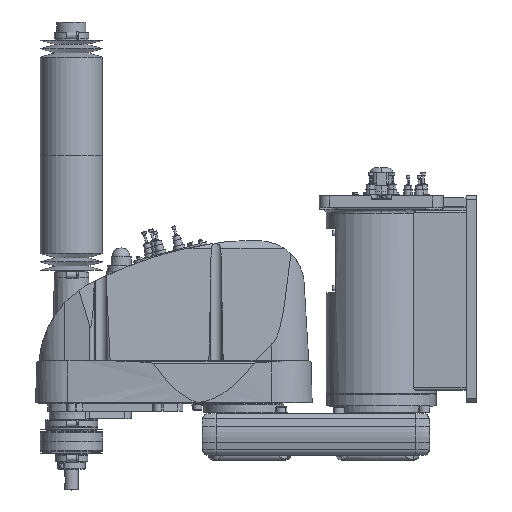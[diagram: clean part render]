
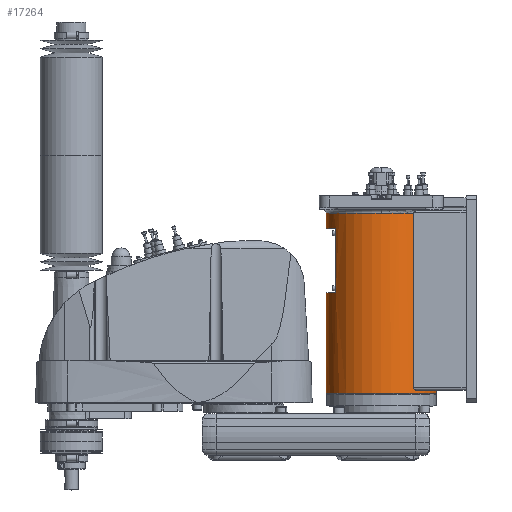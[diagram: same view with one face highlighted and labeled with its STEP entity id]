
A CAD part, top view. The second image highlights one B-rep face of the part: STEP entity #17264.
In plain terms, the highlighted cylindrical face has radius 80 mm (diameter 160 mm), a partial arc.
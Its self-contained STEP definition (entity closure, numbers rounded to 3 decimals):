
#10156 = VERTEX_POINT( '', #28813 );
#10910 = EDGE_CURVE( '', #14516, #13436, #29645, .T. );
#11182 = EDGE_CURVE( '', #26848, #21718, #29935, .T. );
#11786 = EDGE_CURVE( '', #19510, #27258, #30607, .T. );
#12106 = EDGE_CURVE( '', #10156, #21882, #30963, .T. );
#13436 = VERTEX_POINT( '', #32458 );
#14516 = VERTEX_POINT( '', #33651 );
#15782 = VERTEX_POINT( '', #35072 );
#17264 = ADVANCED_FACE( '', ( #36719 ), #36720, .T. );
#18618 = EDGE_CURVE( '', #15782, #21718, #38214, .T. );
#18650 = VERTEX_POINT( '', #38247 );
#19510 = VERTEX_POINT( '', #39207 );
#19734 = EDGE_CURVE( '', #19510, #15782, #39460, .T. );
#19800 = EDGE_CURVE( '', #13436, #10156, #39529, .T. );
#19892 = EDGE_CURVE( '', #21882, #27610, #39632, .T. );
#21616 = VERTEX_POINT( '', #41598 );
#21700 = EDGE_CURVE( '', #27610, #21616, #41691, .T. );
#21718 = VERTEX_POINT( '', #41711 );
#21882 = VERTEX_POINT( '', #41893 );
#24484 = EDGE_CURVE( '', #18650, #14516, #44806, .T. );
#26140 = EDGE_CURVE( '', #21616, #26848, #46633, .T. );
#26566 = EDGE_CURVE( '', #27258, #18650, #47103, .T. );
#26848 = VERTEX_POINT( '', #47425 );
#27258 = VERTEX_POINT( '', #47882 );
#27610 = VERTEX_POINT( '', #48282 );
#28813 = CARTESIAN_POINT( '', ( -80., 30., 0. ) );
#29645 = CIRCLE( '', #51287, 80. );
#29935 = LINE( '', #51747, #51748 );
#30607 = LINE( '', #52848, #52849 );
#30963 = CIRCLE( '', #53402, 80. );
#32458 = CARTESIAN_POINT( '', ( -80., 176., 0. ) );
#33651 = CARTESIAN_POINT( '', ( -66., 176., 45.211 ) );
#35072 = CARTESIAN_POINT( '', ( 0., 291.5, 80. ) );
#36719 = FACE_OUTER_BOUND( '', #62274, .T. );
#36720 = CYLINDRICAL_SURFACE( '', #62275, 80. );
#38214 = CIRCLE( '', #64573, 80. );
#38247 = CARTESIAN_POINT( '', ( -66., 269., 45.211 ) );
#39207 = CARTESIAN_POINT( '', ( -80., 291.5, 0. ) );
#39460 = CIRCLE( '', #66515, 80. );
#39529 = LINE( '', #66641, #66642 );
#39632 = LINE( '', #66818, #66819 );
#41598 = CARTESIAN_POINT( '', ( 50.557, 34.5, 62. ) );
#41691 = CIRCLE( '', #69867, 80. );
#41711 = CARTESIAN_POINT( '', ( 46.637, 291.5, 65. ) );
#41893 = CARTESIAN_POINT( '', ( 80., 30., 0. ) );
#44806 = LINE( '', #74537, #74538 );
#46633 = B_SPLINE_CURVE_WITH_KNOTS( '', 3, ( #77453, #77454, #77455, #77456, #77457, #77458, #77459, #77460, #77461, #77462, #77463, #77464, #77465, #77466, #77467, #77468 ), .UNSPECIFIED., .F., .F., ( 4, 2, 2, 2, 2, 2, 2, 4 ), ( -6.06, -5.11, -4.16, -2.26, -1.695, -1.13, -0.565, 0. ), .UNSPECIFIED. );
#47103 = CIRCLE( '', #78207, 80. );
#47425 = CARTESIAN_POINT( '', ( 46.637, 37.5, 65. ) );
#47882 = CARTESIAN_POINT( '', ( -80., 269., 0. ) );
#48282 = CARTESIAN_POINT( '', ( 80., 34.5, 0. ) );
#51287 = AXIS2_PLACEMENT_3D( '', #82627, #82628, #82629 );
#51747 = CARTESIAN_POINT( '', ( 46.637, 164.5, 65. ) );
#51748 = VECTOR( '', #82906, 1. );
#52848 = CARTESIAN_POINT( '', ( -80., 160.75, 0. ) );
#52849 = VECTOR( '', #83681, 1. );
#53402 = AXIS2_PLACEMENT_3D( '', #84062, #84063, #84064 );
#62274 = EDGE_LOOP( '', ( #90602, #90603, #90604, #90605, #90606, #90607, #90608, #90609, #90610, #90611, #90612, #90613 ) );
#62275 = AXIS2_PLACEMENT_3D( '', #90614, #90615, #90616 );
#64573 = AXIS2_PLACEMENT_3D( '', #92254, #92255, #92256 );
#66515 = AXIS2_PLACEMENT_3D( '', #93711, #93712, #93713 );
#66641 = CARTESIAN_POINT( '', ( -80., 160.75, 0. ) );
#66642 = VECTOR( '', #93777, 1. );
#66818 = CARTESIAN_POINT( '', ( 80., 160.75, 0. ) );
#66819 = VECTOR( '', #93905, 1. );
#69867 = AXIS2_PLACEMENT_3D( '', #96442, #96443, #96444 );
#74537 = CARTESIAN_POINT( '', ( -66., 222.5, 45.211 ) );
#74538 = VECTOR( '', #100151, 1. );
#77453 = CARTESIAN_POINT( '', ( 50.557, 34.5, 62. ) );
#77454 = CARTESIAN_POINT( '', ( 50.312, 34.5, 62.2 ) );
#77455 = CARTESIAN_POINT( '', ( 50.054, 34.52, 62.407 ) );
#77456 = CARTESIAN_POINT( '', ( 49.533, 34.607, 62.822 ) );
#77457 = CARTESIAN_POINT( '', ( 49.269, 34.674, 63.029 ) );
#77458 = CARTESIAN_POINT( '', ( 48.491, 34.945, 63.632 ) );
#77459 = CARTESIAN_POINT( '', ( 47.991, 35.221, 64.009 ) );
#77460 = CARTESIAN_POINT( '', ( 47.455, 35.701, 64.405 ) );
#77461 = CARTESIAN_POINT( '', ( 47.333, 35.827, 64.495 ) );
#77462 = CARTESIAN_POINT( '', ( 47.106, 36.105, 64.661 ) );
#77463 = CARTESIAN_POINT( '', ( 47.002, 36.258, 64.736 ) );
#77464 = CARTESIAN_POINT( '', ( 46.828, 36.585, 64.863 ) );
#77465 = CARTESIAN_POINT( '', ( 46.758, 36.761, 64.913 ) );
#77466 = CARTESIAN_POINT( '', ( 46.662, 37.124, 64.982 ) );
#77467 = CARTESIAN_POINT( '', ( 46.637, 37.312, 65. ) );
#77468 = CARTESIAN_POINT( '', ( 46.637, 37.5, 65. ) );
#78207 = AXIS2_PLACEMENT_3D( '', #102701, #102702, #102703 );
#82627 = CARTESIAN_POINT( '', ( 0., 176., 0. ) );
#82628 = DIRECTION( '', ( 0., -1., 0. ) );
#82629 = DIRECTION( '', ( 1., 0., 0. ) );
#82906 = DIRECTION( '', ( 0., 1., 0. ) );
#83681 = DIRECTION( '', ( 0., -1., 0. ) );
#84062 = CARTESIAN_POINT( '', ( 0., 30., 0. ) );
#84063 = DIRECTION( '', ( 0., 1., 0. ) );
#84064 = DIRECTION( '', ( 1., 0., 0. ) );
#90602 = ORIENTED_EDGE( '', *, *, #19892, .T. );
#90603 = ORIENTED_EDGE( '', *, *, #21700, .T. );
#90604 = ORIENTED_EDGE( '', *, *, #26140, .T. );
#90605 = ORIENTED_EDGE( '', *, *, #11182, .T. );
#90606 = ORIENTED_EDGE( '', *, *, #18618, .F. );
#90607 = ORIENTED_EDGE( '', *, *, #19734, .F. );
#90608 = ORIENTED_EDGE( '', *, *, #11786, .T. );
#90609 = ORIENTED_EDGE( '', *, *, #26566, .T. );
#90610 = ORIENTED_EDGE( '', *, *, #24484, .T. );
#90611 = ORIENTED_EDGE( '', *, *, #10910, .T. );
#90612 = ORIENTED_EDGE( '', *, *, #19800, .T. );
#90613 = ORIENTED_EDGE( '', *, *, #12106, .T. );
#90614 = CARTESIAN_POINT( '', ( 0., 160.75, 0. ) );
#90615 = DIRECTION( '', ( 0., -1., 0. ) );
#90616 = DIRECTION( '', ( 1., 0., 0. ) );
#92254 = CARTESIAN_POINT( '', ( 0., 291.5, 0. ) );
#92255 = DIRECTION( '', ( 0., 1., 0. ) );
#92256 = DIRECTION( '', ( 1., 0., 0. ) );
#93711 = CARTESIAN_POINT( '', ( 0., 291.5, 0. ) );
#93712 = DIRECTION( '', ( 0., 1., 0. ) );
#93713 = DIRECTION( '', ( 1., 0., 0. ) );
#93777 = DIRECTION( '', ( 0., -1., 0. ) );
#93905 = DIRECTION( '', ( 0., 1., 0. ) );
#96442 = CARTESIAN_POINT( '', ( 0., 34.5, 0. ) );
#96443 = DIRECTION( '', ( 0., -1., 0. ) );
#96444 = DIRECTION( '', ( 1., 0., 0. ) );
#100151 = DIRECTION( '', ( 0., -1., 0. ) );
#102701 = CARTESIAN_POINT( '', ( 0., 269., 0. ) );
#102702 = DIRECTION( '', ( 0., 1., 0. ) );
#102703 = DIRECTION( '', ( 1., 0., 0. ) );
